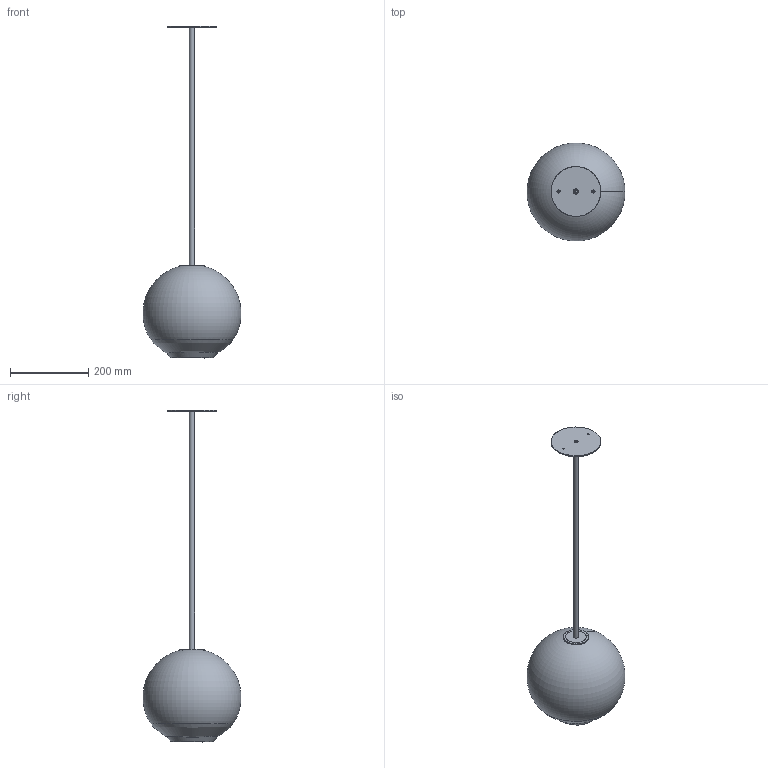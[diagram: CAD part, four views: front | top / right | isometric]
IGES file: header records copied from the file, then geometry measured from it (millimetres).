
Global section: file name: /Users/danielszollosi/Documents/SkLO/Sklo.com/3D models/WEB 3D Models/SkLO_Float_1.0_Pendant_LT253_3D.igs; native system: Rhinoceros ( Sep 24 2023 ); preprocessor: Trout Lake IGES 012 Sep 24 2023; date: 241023.122316; units: millimetre
Bounding box: 249.63 x 249.54 x 846.17 mm (x, y, z)
Surface area: 494133.1 mm2 (no closed solid volume)
Topology: 0 solids, 0 shells, 387 faces, 4258 edges, 4183 vertices
Faces by surface type: bspline 387
